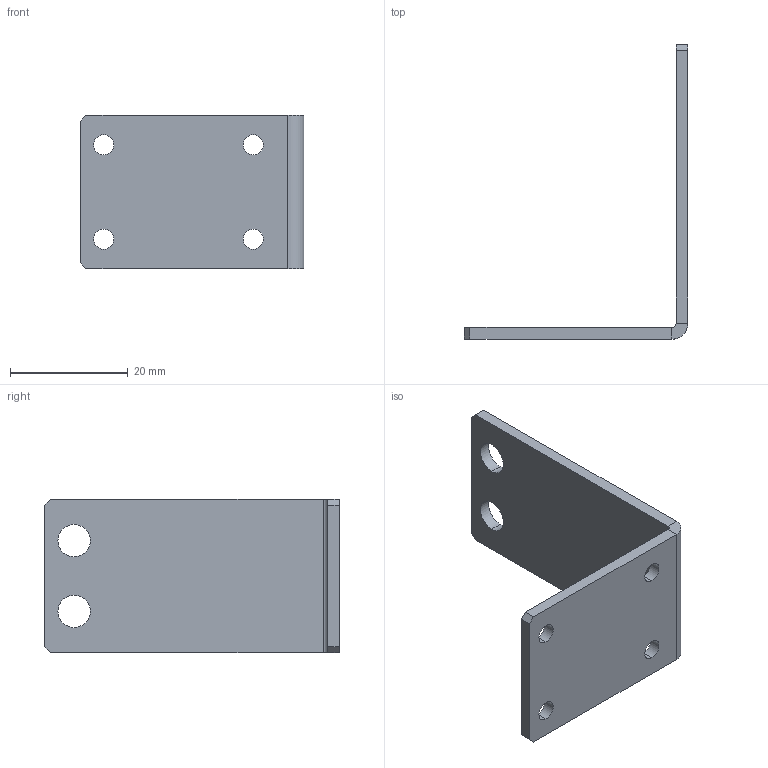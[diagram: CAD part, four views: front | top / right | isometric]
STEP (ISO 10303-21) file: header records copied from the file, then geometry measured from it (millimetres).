
FILE_DESCRIPTION (( 'STEP AP214' ), '1' );
FILE_NAME ('センサー取付金具1.STEP', '2025-10-18T09:09:08', ( '' ), ( '' ), 'SwSTEP 2.0', 'SolidWorks 2023', '' );
FILE_SCHEMA (( 'AUTOMOTIVE_DESIGN' ));
Length unit declared in the file: millimetre
Products named in the file (1): センサー取付金具1
Bounding box: 38 x 50 x 26 mm (x, y, z)
Volume: 4261.6 mm3; surface area: 4856.5 mm2
Topology: 1 solids, 1 shells, 30 faces, 76 edges, 48 vertices
Faces by surface type: plane 16, cylinder 14
Entity records: 951 total; most frequent: DIRECTION 166, CARTESIAN_POINT 155, ORIENTED_EDGE 152, EDGE_CURVE 76, AXIS2_PLACEMENT_3D 59, VECTOR 48, VERTEX_POINT 48, LINE 48
